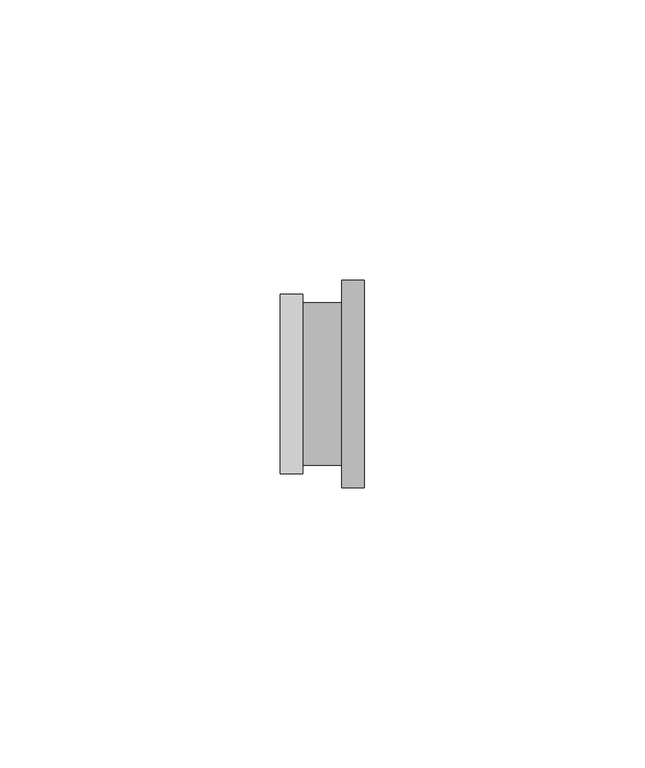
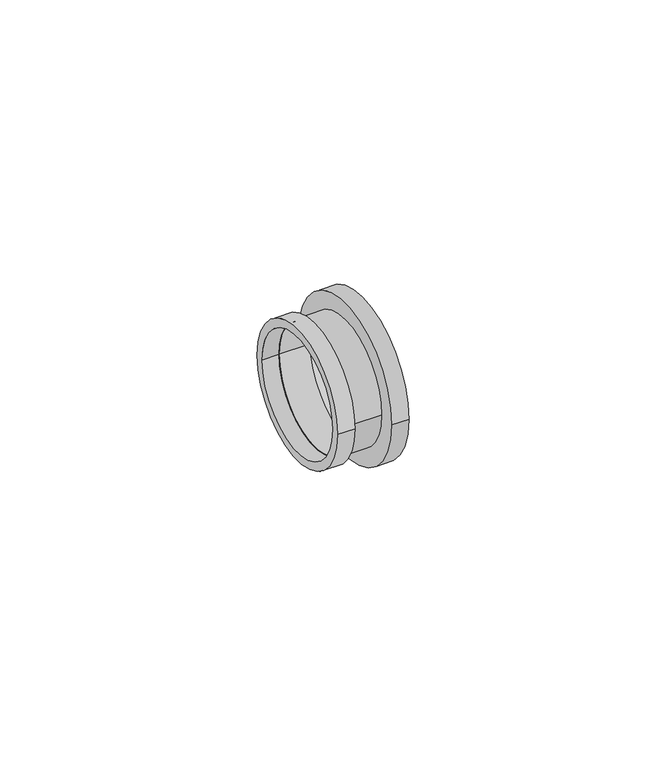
"""IFC4 building model written with IfcOpenShell, lengths in millimetres: pipe fitting geometry, БИР ПЕКС_НПР_Соединитель_Медь : Соединитель медь (пайка) — ПЕКС."""

from ifc_helpers import new_model, si_unit, point, frame, origin, origin_2d, place, context, project, spatial, circle_curve, trimmed, segment, composite_curve, outline, extrude, source, transform, mapped, element, save


def pipe_fitting_e3448ef2(model_context):
    return source(origin(), model_context, "Body", "SweptSolid", [
        extrude(outline(composite_curve([segment(trimmed(circle_curve(origin_2d(), 14.5), [point((-14.5, 0.0))], [point((14.5, 0.0))], False, "CARTESIAN"), True, "CONTINUOUS"), segment(trimmed(circle_curve(origin_2d(), 14.5), [point((14.5, 0.0))], [point((-14.5, 0.0))], False, "CARTESIAN"), True, "CONTINUOUS")], self_intersect=False), holes=[composite_curve([segment(trimmed(circle_curve(origin_2d(), 14.0), [point((-14.0, 0.0))], [point((14.0, 0.0))], True, "CARTESIAN"), True, "CONTINUOUS"), segment(trimmed(circle_curve(origin_2d(), 14.0), [point((14.0, 0.0))], [point((-14.0, 0.0))], True, "CARTESIAN"), True, "CONTINUOUS")], self_intersect=False)]), frame((-3.5, 0.0, 0.0), z_axis=(1.0, 0.0, 0.0), x_axis=(0.0, 1.0, 0.0)), (0.0, 0.0, 1.0), 7.0),
        extrude(outline(composite_curve([segment(trimmed(circle_curve(origin_2d(), 18.5), [point((-18.5, 0.0))], [point((18.5, 0.0))], False, "CARTESIAN"), True, "CONTINUOUS"), segment(trimmed(circle_curve(origin_2d(), 18.5), [point((18.5, 0.0))], [point((-18.5, 0.0))], False, "CARTESIAN"), True, "CONTINUOUS")], self_intersect=False), holes=[composite_curve([segment(trimmed(circle_curve(origin_2d(), 14.0), [point((-14.0, 0.0))], [point((14.0, 0.0))], True, "CARTESIAN"), True, "CONTINUOUS"), segment(trimmed(circle_curve(origin_2d(), 14.0), [point((14.0, 0.0))], [point((-14.0, 0.0))], True, "CARTESIAN"), True, "CONTINUOUS")], self_intersect=False)]), frame((3.5, 0.0, 0.0), z_axis=(1.0, 0.0, 0.0), x_axis=(0.0, 1.0, 0.0)), (0.0, 0.0, 1.0), 4.0),
        extrude(outline(composite_curve([segment(trimmed(circle_curve(origin_2d(), 16.0), [point((-16.0, 0.0))], [point((16.0, 0.0))], False, "CARTESIAN"), True, "CONTINUOUS"), segment(trimmed(circle_curve(origin_2d(), 16.0), [point((16.0, 0.0))], [point((-16.0, 0.0))], False, "CARTESIAN"), True, "CONTINUOUS")], self_intersect=False), holes=[composite_curve([segment(trimmed(circle_curve(origin_2d(), 14.0), [point((-14.0, 0.0))], [point((14.0, 0.0))], True, "CARTESIAN"), True, "CONTINUOUS"), segment(trimmed(circle_curve(origin_2d(), 14.0), [point((14.0, 0.0))], [point((-14.0, 0.0))], True, "CARTESIAN"), True, "CONTINUOUS")], self_intersect=False)]), frame((-7.5, 0.0, 0.0), z_axis=(1.0, 0.0, 0.0), x_axis=(0.0, 1.0, 0.0)), (0.0, 0.0, 1.0), 4.0),
    ])


if __name__ == "__main__":
    model = new_model("IFC4")
    model_context = context("Model", 3, world=origin())
    ifc_project = project(units=[si_unit("LENGTHUNIT", "METRE", prefix="MILLI")], contexts=[model_context])
    site = spatial("IfcSite", under=ifc_project)
    building = spatial("IfcBuilding", under=site)
    placement = place(None, origin())
    pipe_fitting_shape = pipe_fitting_e3448ef2(model_context)
    element("IfcPipeFitting", 1, ObjectType="БИР ПЕКС_НПР_Соединитель_Медь : Соединитель медь (пайка) — ПЕКС", at=placement, inside=building, context=model_context, shape_type="MappedRepresentation", body=[
        mapped(pipe_fitting_shape, transform((0.0, 0.0, 0.0), x_axis=(1.0, 0.0, 0.0), y_axis=(0.0, 1.0, 0.0), z_axis=(0.0, 0.0, 1.0))),
    ])
    save(model, "model.ifc")
